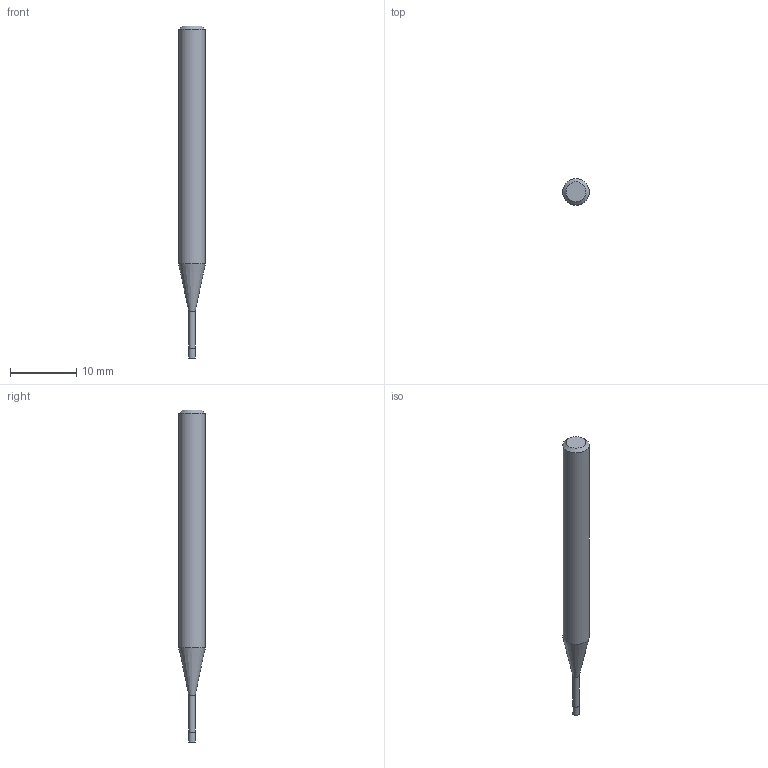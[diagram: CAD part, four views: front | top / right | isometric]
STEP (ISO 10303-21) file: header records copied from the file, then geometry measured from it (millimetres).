
FILE_DESCRIPTION((''),'2;1');
FILE_NAME('C:\Users\nsx150\AppData\Local\Temp\Mastercam 2021\17T8Q8S9EB\TEMP.step','2021-04-21T14:25:49',(''),(''),'STEP Write','Mastercam 2021 ... CNC Software, Inc.','');
FILE_SCHEMA(('AUTOMOTIVE_DESIGN'));
Length unit declared in the file: millimetre
Products named in the file (1): None
Bounding box: 4 x 4 x 50 mm (x, y, z)
Volume: 492.7 mm3; surface area: 539.2 mm2
Topology: 2 solids, 2 shells, 9 faces, 12 edges, 7 vertices
Faces by surface type: plane 4, cylinder 3, cone 2
Full cylindrical faces by diameter (mm): 0.95 x1, 1 x1, 4 x1
Entity records: 211 total; most frequent: DIRECTION 36, CARTESIAN_POINT 25, AXIS2_PLACEMENT_3D 18, ORIENTED_EDGE 14, EDGE_LOOP 14, STYLED_ITEM 12, ADVANCED_FACE 9, FACE_BOUND 8
